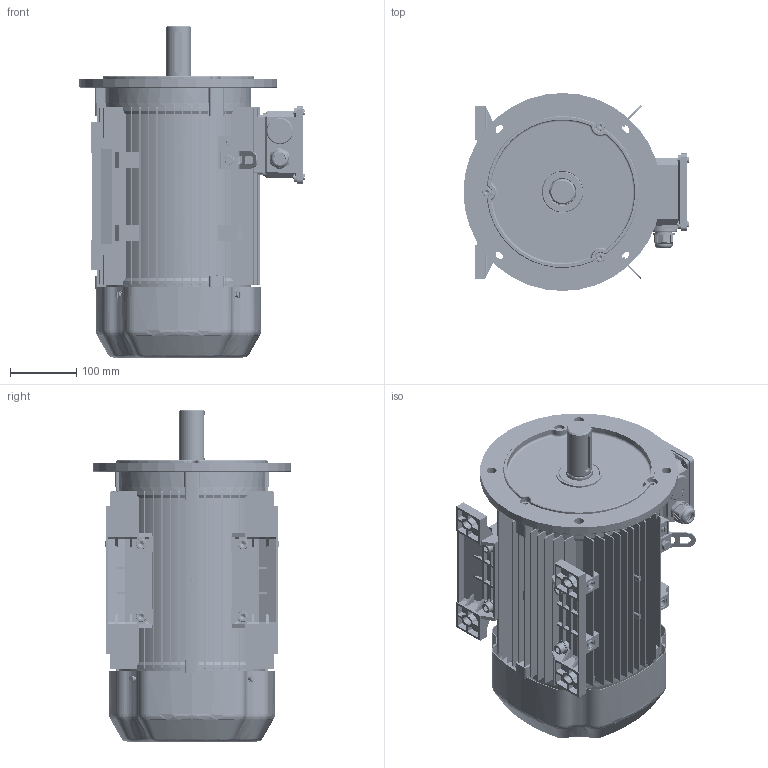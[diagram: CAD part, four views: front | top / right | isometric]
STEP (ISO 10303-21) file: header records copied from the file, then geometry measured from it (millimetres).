
FILE_DESCRIPTION(/* description */ (''),/* implementation_level */ '2;1');
FILE_NAME(/* name */ 'JL-132M-B35.stp',/* time_stamp */ '2016-09-01T13:49:10+08:00',/* author */ (''),/* organization */ (''),/* preprocessor_version */ 'ST-DEVELOPER v16',/* originating_system */ 'SIEMENS PLM Software NX 10.0',/* authorisation */ '');
FILE_SCHEMA (('AUTOMOTIVE_DESIGN { 1 0 10303 214 3 1 1 1 }'));
Products named in the file (1): pc05908BCBsxhe
Bounding box: 341 x 300 x 503.01 mm (x, y, z)
Volume: 4008468.6 mm3; surface area: 1961477.9 mm2
Topology: 59 solids, 59 shells, 5314 faces, 14975 edges, 9911 vertices
Faces by surface type: plane 2793, cylinder 1818, bspline 294, torus 205, cone 204
Full cylindrical faces by diameter (mm): 2 x4, 4.2 x4, 4.48 x9, 4.8 x10, 5 x33, 5.3 x5, 5.8 x14, 6 x1, 7.188 x3, 8 x15, 8.58 x2, 9.1 x3, 10 x27, 10.715 x4, 11 x6, 12 x12, 13 x7, 14.785 x2, 15 x4, 16 x11, 17 x4, 17.188 x1, 17.785 x4, 18 x12, 20.312 x2, 23.438 x5, 24.219 x6, 25 x13, 25.781 x6, 26 x1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
Entity records: 211915 total; most frequent: CARTESIAN_POINT 78616, ORIENTED_EDGE 28492, DIRECTION 26057, EDGE_CURVE 14246, VERTEX_POINT 9610, AXIS2_PLACEMENT_3D 9054, LINE 7949, VECTOR 7949
